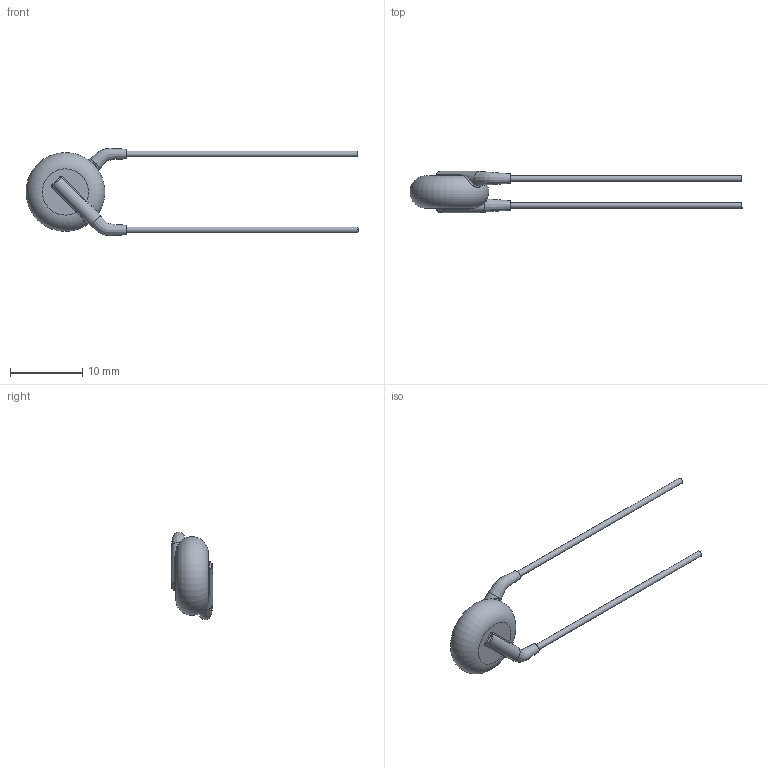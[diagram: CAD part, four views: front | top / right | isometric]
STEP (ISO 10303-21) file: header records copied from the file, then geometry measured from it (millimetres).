
FILE_DESCRIPTION(/* description */ (''),/* implementation_level */ '2;1');
FILE_NAME(/* name */ 'I:\Marketing\M6t1\3D-Models\Zchng-Werk-3\Upload for homepage\Ceramite\Y5U\440LD22-R\440LD22-R.stp',/* time_stamp */ '2016-11-15T13:21:15+01:00',/* author */ ('sheinrich'),/* organization */ (''),/* preprocessor_version */ 'ST-DEVELOPER v16.1',/* originating_system */ 'Autodesk Inventor 2016',/* authorisation */ '');
FILE_SCHEMA (('AUTOMOTIVE_DESIGN { 1 0 10303 214 3 1 1 }'));
Length unit declared in the file: millimetre
Products named in the file (1): 440LD22-R
Bounding box: 45.9 x 5.7 x 12.07 mm (x, y, z)
Volume: 424.2 mm3; surface area: 499.8 mm2
Topology: 1 solids, 1 shells, 37 faces, 80 edges, 43 vertices
Faces by surface type: bspline 12, cylinder 10, plane 8, torus 7
Full cylindrical faces by diameter (mm): 0.81 x2, 2 x2
Entity records: 1728 total; most frequent: CARTESIAN_POINT 977, ORIENTED_EDGE 136, DIRECTION 128, EDGE_CURVE 68, AXIS2_PLACEMENT_3D 58, EDGE_LOOP 44, VERTEX_POINT 40, STYLED_ITEM 38
